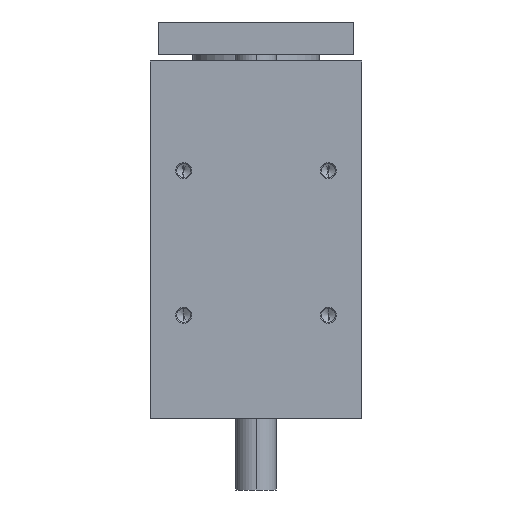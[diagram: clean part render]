
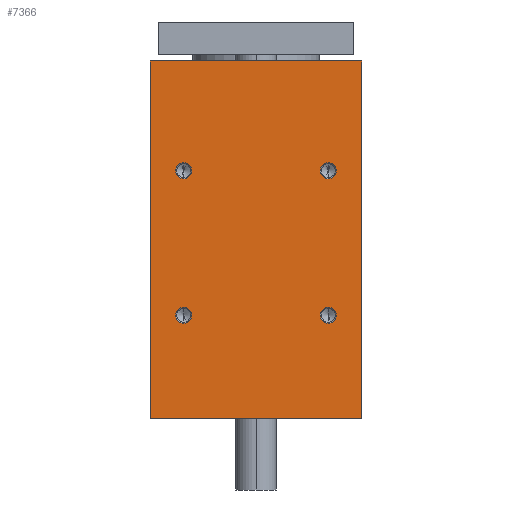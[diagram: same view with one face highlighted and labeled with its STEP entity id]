
A CAD part, left-side view. The second image highlights one B-rep face of the part: STEP entity #7366.
In plain terms, the highlighted planar face has unit normal (-1, 0, 0).
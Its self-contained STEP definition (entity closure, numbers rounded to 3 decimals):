
#64 = CARTESIAN_POINT ( 'NONE',  ( -106.5, 65., 92. ) ) ;
#250 = VECTOR ( 'NONE', #7643, 1000. ) ;
#253 = CARTESIAN_POINT ( 'NONE',  ( -106.5, -44.5, -59.5 ) ) ;
#275 = AXIS2_PLACEMENT_3D ( 'NONE', #1394, #4368, #8199 ) ;
#354 = AXIS2_PLACEMENT_3D ( 'NONE', #8919, #2791, #6586 ) ;
#379 = CIRCLE ( 'NONE', #5512, 5. ) ;
#393 = VECTOR ( 'NONE', #2546, 1000. ) ;
#499 = VERTEX_POINT ( 'NONE', #7037 ) ;
#756 = ORIENTED_EDGE ( 'NONE', *, *, #4661, .T. ) ;
#843 = EDGE_CURVE ( 'NONE', #4731, #1996, #2447, .T. ) ;
#881 = DIRECTION ( 'NONE',  ( 0., 0., -1. ) ) ;
#1019 = ORIENTED_EDGE ( 'NONE', *, *, #7119, .T. ) ;
#1024 = CIRCLE ( 'NONE', #7399, 5. ) ;
#1080 = ORIENTED_EDGE ( 'NONE', *, *, #1473, .F. ) ;
#1179 = EDGE_CURVE ( 'NONE', #6051, #9144, #1024, .T. ) ;
#1190 = AXIS2_PLACEMENT_3D ( 'NONE', #9240, #6863, #6956 ) ;
#1227 = LINE ( 'NONE', #7163, #5492 ) ;
#1236 = DIRECTION ( 'NONE',  ( 0., 0., -1. ) ) ;
#1329 = CARTESIAN_POINT ( 'NONE',  ( -106.5, 44.5, -59.5 ) ) ;
#1394 = CARTESIAN_POINT ( 'NONE',  ( -106.5, -44.5, 24.5 ) ) ;
#1420 = LINE ( 'NONE', #4396, #4281 ) ;
#1473 = EDGE_CURVE ( 'NONE', #1762, #6496, #6194, .T. ) ;
#1571 = DIRECTION ( 'NONE',  ( 0., 0., -1. ) ) ;
#1631 = EDGE_CURVE ( 'NONE', #8280, #6496, #1420, .T. ) ;
#1667 = CARTESIAN_POINT ( 'NONE',  ( -106.5, 44.5, 24.5 ) ) ;
#1762 = VERTEX_POINT ( 'NONE', #64 ) ;
#1984 = CARTESIAN_POINT ( 'NONE',  ( -106.5, -44.5, -69.5 ) ) ;
#1996 = VERTEX_POINT ( 'NONE', #9149 ) ;
#2069 = AXIS2_PLACEMENT_3D ( 'NONE', #7539, #5990, #881 ) ;
#2161 = ORIENTED_EDGE ( 'NONE', *, *, #6056, .T. ) ;
#2349 = EDGE_LOOP ( 'NONE', ( #8909, #3247 ) ) ;
#2447 = CIRCLE ( 'NONE', #275, 5. ) ;
#2537 = CARTESIAN_POINT ( 'NONE',  ( -106.5, 44.5, -69.5 ) ) ;
#2546 = DIRECTION ( 'NONE',  ( 0., -1., 0. ) ) ;
#2658 = ORIENTED_EDGE ( 'NONE', *, *, #1631, .T. ) ;
#2690 = CARTESIAN_POINT ( 'NONE',  ( -106.5, 65., 92. ) ) ;
#2741 = EDGE_LOOP ( 'NONE', ( #2658, #1080, #4304, #2161 ) ) ;
#2750 = CARTESIAN_POINT ( 'NONE',  ( -106.5, -44.5, -64.5 ) ) ;
#2791 = DIRECTION ( 'NONE',  ( 1., 0., 0. ) ) ;
#2961 = EDGE_CURVE ( 'NONE', #9144, #6051, #7514, .T. ) ;
#3009 = DIRECTION ( 'NONE',  ( 1., 0., 0. ) ) ;
#3154 = AXIS2_PLACEMENT_3D ( 'NONE', #6812, #3009, #7389 ) ;
#3220 = CARTESIAN_POINT ( 'NONE',  ( -106.5, 44.5, 29.5 ) ) ;
#3247 = ORIENTED_EDGE ( 'NONE', *, *, #6339, .T. ) ;
#3252 = DIRECTION ( 'NONE',  ( 0., 0., -1. ) ) ;
#3531 = EDGE_LOOP ( 'NONE', ( #7011, #756 ) ) ;
#3572 = FACE_BOUND ( 'NONE', #3531, .T. ) ;
#3615 = DIRECTION ( 'NONE',  ( 0., 0., 1. ) ) ;
#3619 = FACE_BOUND ( 'NONE', #6877, .T. ) ;
#3792 = CIRCLE ( 'NONE', #2069, 5. ) ;
#4091 = CARTESIAN_POINT ( 'NONE',  ( -106.5, 65., -128. ) ) ;
#4108 = CARTESIAN_POINT ( 'NONE',  ( -106.5, 65., -128. ) ) ;
#4244 = CIRCLE ( 'NONE', #3154, 5. ) ;
#4281 = VECTOR ( 'NONE', #5896, 1000. ) ;
#4304 = ORIENTED_EDGE ( 'NONE', *, *, #6475, .F. ) ;
#4368 = DIRECTION ( 'NONE',  ( 1., 0., 0. ) ) ;
#4396 = CARTESIAN_POINT ( 'NONE',  ( -106.5, -65., -128. ) ) ;
#4661 = EDGE_CURVE ( 'NONE', #499, #8857, #5467, .T. ) ;
#4731 = VERTEX_POINT ( 'NONE', #6634 ) ;
#4772 = VERTEX_POINT ( 'NONE', #2537 ) ;
#5027 = AXIS2_PLACEMENT_3D ( 'NONE', #6362, #6949, #3252 ) ;
#5047 = EDGE_LOOP ( 'NONE', ( #6180, #8185 ) ) ;
#5121 = ORIENTED_EDGE ( 'NONE', *, *, #843, .T. ) ;
#5173 = DIRECTION ( 'NONE',  ( 1., 0., 0. ) ) ;
#5236 = CIRCLE ( 'NONE', #1190, 5. ) ;
#5251 = EDGE_CURVE ( 'NONE', #8857, #499, #5236, .T. ) ;
#5467 = CIRCLE ( 'NONE', #7174, 5. ) ;
#5492 = VECTOR ( 'NONE', #3615, 1000. ) ;
#5512 = AXIS2_PLACEMENT_3D ( 'NONE', #7089, #9230, #6315 ) ;
#5852 = FACE_OUTER_BOUND ( 'NONE', #2741, .T. ) ;
#5896 = DIRECTION ( 'NONE',  ( 0., 0., 1. ) ) ;
#5902 = FACE_BOUND ( 'NONE', #2349, .T. ) ;
#5952 = FACE_BOUND ( 'NONE', #5047, .T. ) ;
#5990 = DIRECTION ( 'NONE',  ( 1., 0., 0. ) ) ;
#6051 = VERTEX_POINT ( 'NONE', #253 ) ;
#6056 = EDGE_CURVE ( 'NONE', #8788, #8280, #9346, .T. ) ;
#6180 = ORIENTED_EDGE ( 'NONE', *, *, #1179, .T. ) ;
#6194 = LINE ( 'NONE', #2690, #393 ) ;
#6315 = DIRECTION ( 'NONE',  ( 0., 0., -1. ) ) ;
#6339 = EDGE_CURVE ( 'NONE', #4772, #6501, #3792, .T. ) ;
#6353 = DIRECTION ( 'NONE',  ( 1., 0., 0. ) ) ;
#6362 = CARTESIAN_POINT ( 'NONE',  ( -106.5, -44.5, -64.5 ) ) ;
#6475 = EDGE_CURVE ( 'NONE', #8788, #1762, #1227, .T. ) ;
#6496 = VERTEX_POINT ( 'NONE', #8719 ) ;
#6501 = VERTEX_POINT ( 'NONE', #1329 ) ;
#6586 = DIRECTION ( 'NONE',  ( 0., 1., 0. ) ) ;
#6634 = CARTESIAN_POINT ( 'NONE',  ( -106.5, -44.5, 29.5 ) ) ;
#6812 = CARTESIAN_POINT ( 'NONE',  ( -106.5, -44.5, 24.5 ) ) ;
#6863 = DIRECTION ( 'NONE',  ( 1., 0., 0. ) ) ;
#6877 = EDGE_LOOP ( 'NONE', ( #5121, #1019 ) ) ;
#6949 = DIRECTION ( 'NONE',  ( 1., 0., 0. ) ) ;
#6956 = DIRECTION ( 'NONE',  ( 0., 0., -1. ) ) ;
#7011 = ORIENTED_EDGE ( 'NONE', *, *, #5251, .T. ) ;
#7037 = CARTESIAN_POINT ( 'NONE',  ( -106.5, 44.5, 19.5 ) ) ;
#7089 = CARTESIAN_POINT ( 'NONE',  ( -106.5, 44.5, -64.5 ) ) ;
#7119 = EDGE_CURVE ( 'NONE', #1996, #4731, #4244, .T. ) ;
#7163 = CARTESIAN_POINT ( 'NONE',  ( -106.5, 65., -128. ) ) ;
#7174 = AXIS2_PLACEMENT_3D ( 'NONE', #1667, #5173, #1571 ) ;
#7176 = CARTESIAN_POINT ( 'NONE',  ( -106.5, -65., -128. ) ) ;
#7366 = ADVANCED_FACE ( 'NONE', ( #5852, #5952, #5902, #3619, #3572 ), #8089, .F. ) ;
#7389 = DIRECTION ( 'NONE',  ( 0., 0., -1. ) ) ;
#7399 = AXIS2_PLACEMENT_3D ( 'NONE', #2750, #6353, #1236 ) ;
#7514 = CIRCLE ( 'NONE', #5027, 5. ) ;
#7539 = CARTESIAN_POINT ( 'NONE',  ( -106.5, 44.5, -64.5 ) ) ;
#7643 = DIRECTION ( 'NONE',  ( 0., -1., 0. ) ) ;
#8089 = PLANE ( 'NONE',  #354 ) ;
#8185 = ORIENTED_EDGE ( 'NONE', *, *, #2961, .T. ) ;
#8199 = DIRECTION ( 'NONE',  ( 0., 0., -1. ) ) ;
#8280 = VERTEX_POINT ( 'NONE', #7176 ) ;
#8719 = CARTESIAN_POINT ( 'NONE',  ( -106.5, -65., 92. ) ) ;
#8788 = VERTEX_POINT ( 'NONE', #4108 ) ;
#8857 = VERTEX_POINT ( 'NONE', #3220 ) ;
#8909 = ORIENTED_EDGE ( 'NONE', *, *, #9266, .T. ) ;
#8919 = CARTESIAN_POINT ( 'NONE',  ( -106.5, 65., -128. ) ) ;
#9144 = VERTEX_POINT ( 'NONE', #1984 ) ;
#9149 = CARTESIAN_POINT ( 'NONE',  ( -106.5, -44.5, 19.5 ) ) ;
#9230 = DIRECTION ( 'NONE',  ( 1., 0., 0. ) ) ;
#9240 = CARTESIAN_POINT ( 'NONE',  ( -106.5, 44.5, 24.5 ) ) ;
#9266 = EDGE_CURVE ( 'NONE', #6501, #4772, #379, .T. ) ;
#9346 = LINE ( 'NONE', #4091, #250 ) ;
